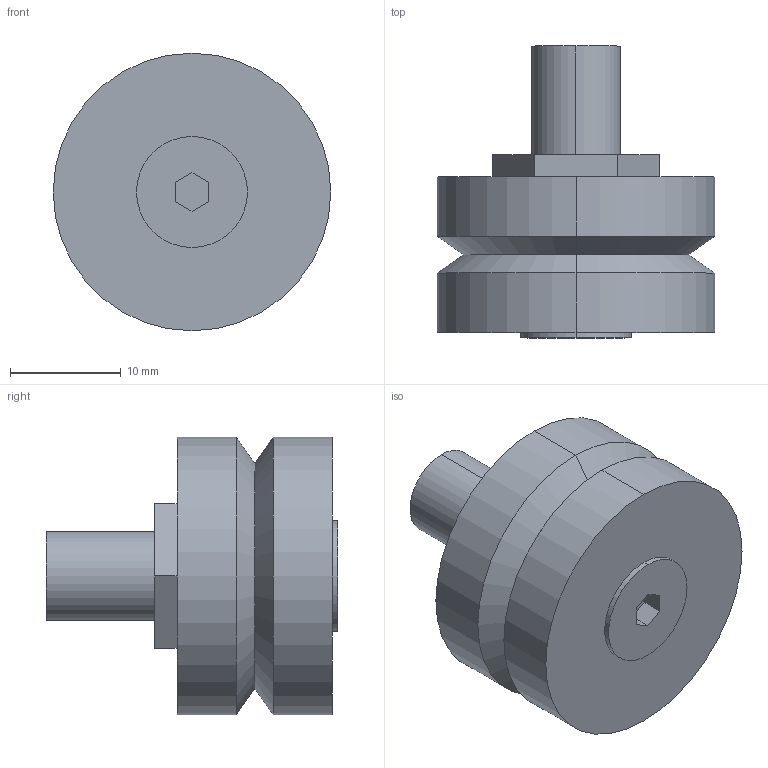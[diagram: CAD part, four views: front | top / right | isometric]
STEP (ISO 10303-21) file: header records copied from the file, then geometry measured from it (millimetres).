
FILE_DESCRIPTION(('STEP AP203'),'1');
FILE_NAME('bhj_25_c.stp','2020-10-26T13:26:17',('TraceParts'),('TraceParts S.A.'),'Spatial InterOp 3D',' ',' ');
FILE_SCHEMA(('CONFIG_CONTROL_DESIGN'));
Length unit declared in the file: millimetre
Products named in the file (1): 1
Bounding box: 25 x 26.3 x 25 mm (x, y, z)
Volume: 7393 mm3; surface area: 2604.7 mm2
Topology: 1 solids, 1 shells, 30 faces, 66 edges, 42 vertices
Faces by surface type: plane 18, cylinder 8, cone 4
Entity records: 864 total; most frequent: DIRECTION 146, CARTESIAN_POINT 139, ORIENTED_EDGE 132, EDGE_CURVE 66, AXIS2_PLACEMENT_3D 49, LINE 48, VECTOR 48, VERTEX_POINT 42
